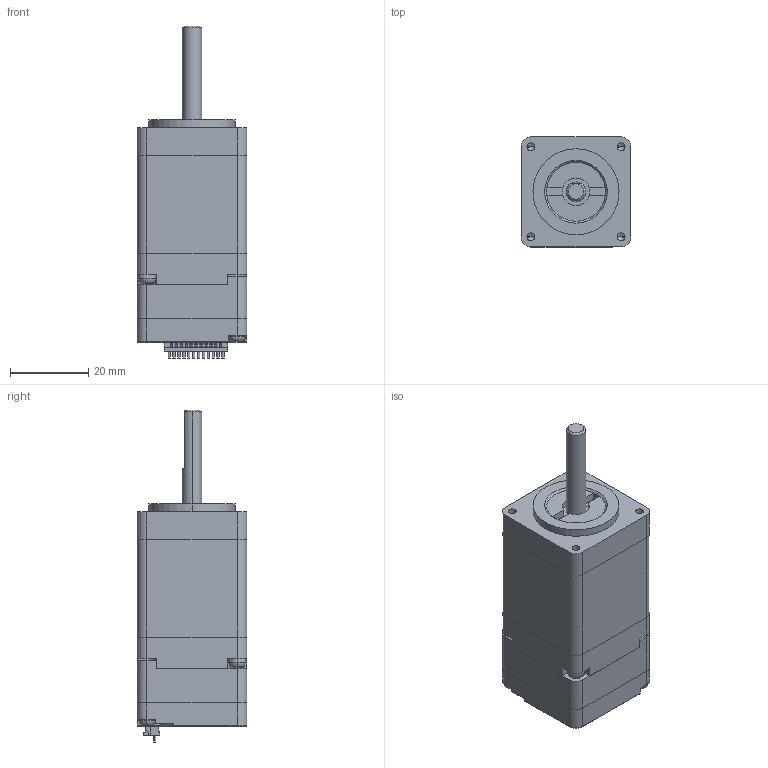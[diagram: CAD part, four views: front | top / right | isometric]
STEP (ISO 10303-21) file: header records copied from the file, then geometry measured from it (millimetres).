
FILE_DESCRIPTION (( 'STEP AP214' ), '1' );
FILE_NAME ('IC28E012-v3.STEP', '2022-07-25T09:00:51', ( '' ), ( '' ), 'SwSTEP 2.0', 'SolidWorks 2022', '' );
FILE_SCHEMA (( 'AUTOMOTIVE_DESIGN' ));
Length unit declared in the file: millimetre
Products named in the file (3): IC28E012-v3; IC28驱动器; IC28_萇儂_綴粣噤5
Assembly tree (2 placements, depth 2):
  IC28E012-v3
    IC28_萇儂_綴粣噤5
    IC28驱动器
Bounding box: 28.01 x 28.01 x 84.8 mm (x, y, z)
Volume: 41850.2 mm3; surface area: 15210.5 mm2
Topology: 2 solids, 4 shells, 1832 faces, 5627 edges, 3630 vertices
Faces by surface type: plane 1554, cylinder 245, torus 18, cone 13, sphere 2
Entity records: 64674 total; most frequent: CARTESIAN_POINT 11558, ORIENTED_EDGE 11234, DIRECTION 9753, EDGE_CURVE 5617, VECTOR 4987, LINE 4987, VERTEX_POINT 3630, AXIS2_PLACEMENT_3D 2383
